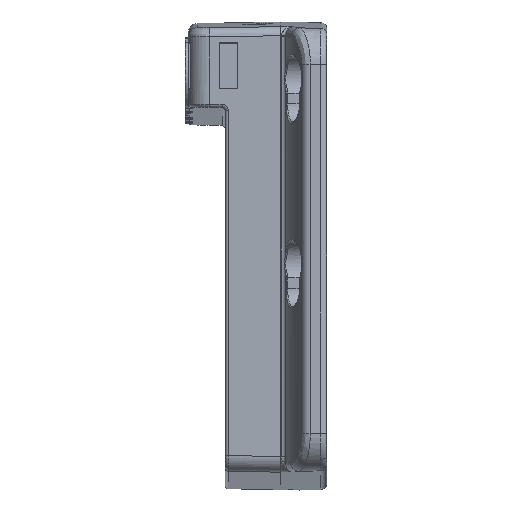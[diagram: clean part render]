
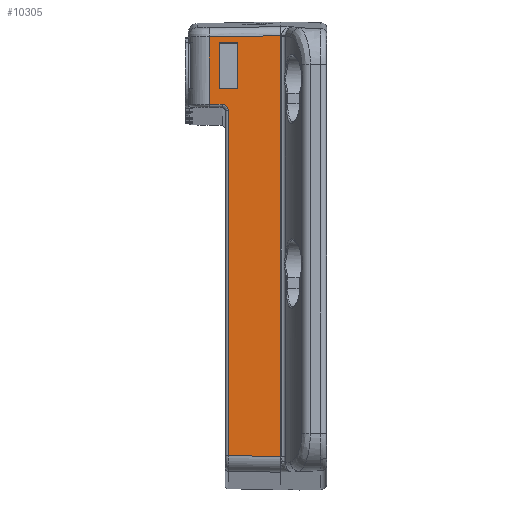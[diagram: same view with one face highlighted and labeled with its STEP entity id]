
A CAD part, left-side view. The second image highlights one B-rep face of the part: STEP entity #10305.
In plain terms, the highlighted planar face has unit normal (-1, 0.018, 0.018).
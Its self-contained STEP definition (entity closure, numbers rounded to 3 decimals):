
#1893 = FACE_OUTER_BOUND ( 'NONE', #30958, .T. ) ;
#1913 = FACE_BOUND ( 'NONE', #30960, .T. ) ;
#3205 = EDGE_CURVE ( 'NONE', #5982, #5975, #29419, .T. ) ;
#3214 = EDGE_CURVE ( 'NONE', #6015, #6013, #29439, .T. ) ;
#3216 = EDGE_CURVE ( 'NONE', #6013, #5982, #29449, .T. ) ;
#3234 = EDGE_CURVE ( 'NONE', #5975, #6015, #29552, .T. ) ;
#5975 = VERTEX_POINT ( 'NONE', #13834 ) ;
#5982 = VERTEX_POINT ( 'NONE', #13911 ) ;
#6013 = VERTEX_POINT ( 'NONE', #13920 ) ;
#6015 = VERTEX_POINT ( 'NONE', #13907 ) ;
#6146 = CARTESIAN_POINT ( 'NONE',  ( -78.235, -24.642, 117.213 ) ) ;
#6147 = DIRECTION ( 'NONE',  ( 0.018, 0., 1. ) ) ;
#6171 = CARTESIAN_POINT ( 'NONE',  ( -78.34, -30.642, 117.215 ) ) ;
#6172 = DIRECTION ( 'NONE',  ( -0.018, 0., -1. ) ) ;
#6176 = CARTESIAN_POINT ( 'NONE',  ( -78.676, -44.642, 112.22 ) ) ;
#6181 = DIRECTION ( 'NONE',  ( -0.017, -1., 0. ) ) ;
#6297 = DIRECTION ( 'NONE',  ( 0.017, 1., 0. ) ) ;
#6298 = CARTESIAN_POINT ( 'NONE',  ( -78.951, -44.642, 97.223 ) ) ;
#8309 = EDGE_CURVE ( 'NONE', #24212, #24199, #18132, .T. ) ;
#8317 = EDGE_CURVE ( 'NONE', #24160, #24167, #28885, .T. ) ;
#8379 = EDGE_CURVE ( 'NONE', #24199, #24160, #28972, .T. ) ;
#8389 = EDGE_CURVE ( 'NONE', #24193, #24196, #28982, .T. ) ;
#8404 = EDGE_CURVE ( 'NONE', #24210, #24212, #28993, .T. ) ;
#8405 = EDGE_CURVE ( 'NONE', #24196, #24210, #29042, .T. ) ;
#8416 = EDGE_CURVE ( 'NONE', #24167, #24193, #27900, .T. ) ;
#10305 = ADVANCED_FACE ( 'NONE', ( #1893, #1913 ), #19660, .T. ) ;
#12927 = CARTESIAN_POINT ( 'NONE',  ( -78.642, -21.519, 92.12 ) ) ;
#12943 = CARTESIAN_POINT ( 'NONE',  ( -78.24, -21.519, 113.974 ) ) ;
#12970 = CARTESIAN_POINT ( 'NONE',  ( -78.786, -27.624, 90.05 ) ) ;
#12971 = CARTESIAN_POINT ( 'NONE',  ( -78.715, -25.659, 92.049 ) ) ;
#12974 = CARTESIAN_POINT ( 'NONE',  ( -80.844, -27.624, -21.966 ) ) ;
#12975 = CARTESIAN_POINT ( 'NONE',  ( -78.637, -44.642, 114.366 ) ) ;
#12986 = CARTESIAN_POINT ( 'NONE',  ( -81.146, -44.642, -22.258 ) ) ;
#13834 = CARTESIAN_POINT ( 'NONE',  ( -78.707, -30.642, 97.218 ) ) ;
#13907 = CARTESIAN_POINT ( 'NONE',  ( -78.602, -24.642, 97.217 ) ) ;
#13911 = CARTESIAN_POINT ( 'NONE',  ( -78.432, -30.642, 112.216 ) ) ;
#13920 = CARTESIAN_POINT ( 'NONE',  ( -78.327, -24.642, 112.214 ) ) ;
#17817 = CARTESIAN_POINT ( 'NONE',  ( -78.637, -44.642, 114.366 ) ) ;
#17820 = CARTESIAN_POINT ( 'NONE',  ( -78.504, -36.934, 114.235 ) ) ;
#17821 = CARTESIAN_POINT ( 'NONE',  ( -78.372, -29.227, 114.104 ) ) ;
#17822 = CARTESIAN_POINT ( 'NONE',  ( -78.24, -21.519, 113.974 ) ) ;
#17865 = DIRECTION ( 'NONE',  ( -0.018, -1., -0.017 ) ) ;
#17874 = CARTESIAN_POINT ( 'NONE',  ( -79.045, -44.197, 91.731 ) ) ;
#18132 = B_SPLINE_CURVE_WITH_KNOTS ( 'NONE', 3,
 ( #17817, #17820, #17821, #17822 ),
 .UNSPECIFIED., .F., .F.,
 ( 4, 4 ),
 ( 0., 0.023 ),
 .UNSPECIFIED. ) ;
#18514 = CARTESIAN_POINT ( 'NONE',  ( -78.765, -27.624, 91.205 ) ) ;
#18519 = CARTESIAN_POINT ( 'NONE',  ( -78.736, -26.814, 92.029 ) ) ;
#18523 = CARTESIAN_POINT ( 'NONE',  ( -78.786, -27.624, 90.05 ) ) ;
#19363 = CARTESIAN_POINT ( 'NONE',  ( -78.658, -21.519, 91.24 ) ) ;
#19365 = DIRECTION ( 'NONE',  ( -0.018, 0., -1. ) ) ;
#19403 = CARTESIAN_POINT ( 'NONE',  ( -80.843, -27.624, -21.949 ) ) ;
#19408 = DIRECTION ( 'NONE',  ( -0.018, 0., -1. ) ) ;
#19445 = CARTESIAN_POINT ( 'NONE',  ( -78.584, -44.642, 117.22 ) ) ;
#19446 = CARTESIAN_POINT ( 'NONE',  ( -81.103, -42.208, -22.216 ) ) ;
#19459 = DIRECTION ( 'NONE',  ( -0.018, -1., -0.017 ) ) ;
#19464 = DIRECTION ( 'NONE',  ( 0.018, 0., 1. ) ) ;
#19478 = CARTESIAN_POINT ( 'NONE',  ( -78.715, -25.659, 92.049 ) ) ;
#19660 = PLANE ( 'NONE',  #24422 ) ;
#19672 = CARTESIAN_POINT ( 'NONE',  ( -78.584, -44.642, 117.22 ) ) ;
#19700 = DIRECTION ( 'NONE',  ( -0.017, -1., 0. ) ) ;
#19742 = DIRECTION ( 'NONE',  ( -1., 0.017, 0.018 ) ) ;
#24160 = VERTEX_POINT ( 'NONE', #12927 ) ;
#24167 = VERTEX_POINT ( 'NONE', #12971 ) ;
#24193 = VERTEX_POINT ( 'NONE', #12970 ) ;
#24196 = VERTEX_POINT ( 'NONE', #12974 ) ;
#24199 = VERTEX_POINT ( 'NONE', #12943 ) ;
#24210 = VERTEX_POINT ( 'NONE', #12986 ) ;
#24212 = VERTEX_POINT ( 'NONE', #12975 ) ;
#24422 = AXIS2_PLACEMENT_3D ( 'NONE', #19672, #19742, #19700 ) ;
#27900 =( BOUNDED_CURVE ( )  B_SPLINE_CURVE ( 3, ( #19478, #18519, #18514, #18523 ),
 .UNSPECIFIED., .F., .T. ) 
 B_SPLINE_CURVE_WITH_KNOTS ( ( 4, 4 ),
 ( 4.73, 6.283 ),
 .UNSPECIFIED. ) 
 CURVE ( )  GEOMETRIC_REPRESENTATION_ITEM ( )  RATIONAL_B_SPLINE_CURVE ( ( 1., 0.809, 0.809, 1. ) ) 
 REPRESENTATION_ITEM ( '' )  );
#28885 = LINE ( 'NONE', #17874, #28894 ) ;
#28894 = VECTOR ( 'NONE', #17865, 1000. ) ;
#28972 = LINE ( 'NONE', #19363, #29000 ) ;
#28975 = VECTOR ( 'NONE', #19408, 1000. ) ;
#28982 = LINE ( 'NONE', #19403, #28975 ) ;
#28993 = LINE ( 'NONE', #19445, #29029 ) ;
#29000 = VECTOR ( 'NONE', #19365, 1000. ) ;
#29019 = VECTOR ( 'NONE', #19459, 1000. ) ;
#29029 = VECTOR ( 'NONE', #19464, 1000. ) ;
#29042 = LINE ( 'NONE', #19446, #29019 ) ;
#29387 = VECTOR ( 'NONE', #6147, 1000. ) ;
#29419 = LINE ( 'NONE', #6171, #29437 ) ;
#29437 = VECTOR ( 'NONE', #6172, 1000. ) ;
#29439 = LINE ( 'NONE', #6146, #29387 ) ;
#29449 = LINE ( 'NONE', #6176, #29452 ) ;
#29452 = VECTOR ( 'NONE', #6181, 1000. ) ;
#29552 = LINE ( 'NONE', #6298, #29556 ) ;
#29556 = VECTOR ( 'NONE', #6297, 1000. ) ;
#30766 = ORIENTED_EDGE ( 'NONE', *, *, #8405, .T. ) ;
#30803 = ORIENTED_EDGE ( 'NONE', *, *, #8379, .T. ) ;
#30813 = ORIENTED_EDGE ( 'NONE', *, *, #8317, .T. ) ;
#30838 = ORIENTED_EDGE ( 'NONE', *, *, #8309, .T. ) ;
#30847 = ORIENTED_EDGE ( 'NONE', *, *, #8404, .T. ) ;
#30855 = ORIENTED_EDGE ( 'NONE', *, *, #8389, .T. ) ;
#30857 = ORIENTED_EDGE ( 'NONE', *, *, #8416, .T. ) ;
#30858 = ORIENTED_EDGE ( 'NONE', *, *, #3205, .T. ) ;
#30877 = ORIENTED_EDGE ( 'NONE', *, *, #3214, .T. ) ;
#30880 = ORIENTED_EDGE ( 'NONE', *, *, #3216, .T. ) ;
#30885 = ORIENTED_EDGE ( 'NONE', *, *, #3234, .T. ) ;
#30958 = EDGE_LOOP ( 'NONE', ( #30847, #30838, #30803, #30813, #30857, #30855, #30766 ) ) ;
#30960 = EDGE_LOOP ( 'NONE', ( #30858, #30885, #30877, #30880 ) ) ;
